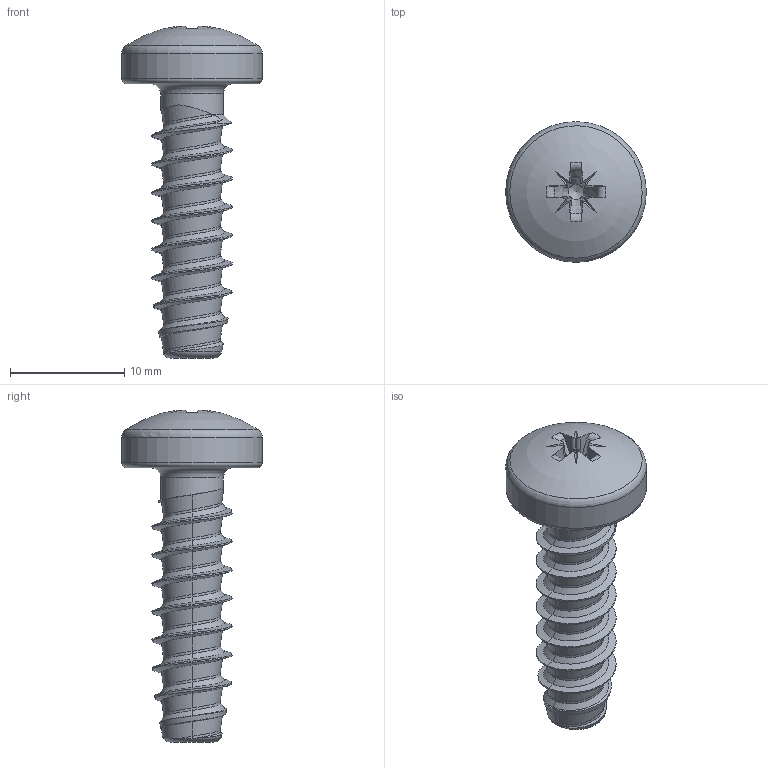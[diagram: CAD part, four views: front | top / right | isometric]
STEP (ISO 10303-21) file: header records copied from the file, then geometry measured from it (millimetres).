
FILE_DESCRIPTION(/* description */ (''),/* implementation_level */ '2;1');
FILE_NAME(/* name */ 'KN6032-STSplus-70x24-Z3.step',/* time_stamp */ '2017-10-10T16:31:24+02:00',/* author */ (''),/* organization */ (''),/* preprocessor_version */ 'ST-DEVELOPER v16',/* originating_system */ 'SIEMENS PLM Software NX 10.0',/* authorisation */ '');
FILE_SCHEMA (('AUTOMOTIVE_DESIGN { 1 0 10303 214 3 1 1 1 }'));
Length unit declared in the file: millimetre
Products named in the file (1): KN6032-STSplus-70x24-Z3
Bounding box: 12.3 x 12.3 x 29.04 mm (x, y, z)
Volume: 1031.8 mm3; surface area: 958.2 mm2
Topology: 1 solids, 1 shells, 117 faces, 284 edges, 169 vertices
Faces by surface type: bspline 48, plane 42, cylinder 11, torus 8, cone 7, sphere 1
Full cylindrical faces by diameter (mm): 5.48 x1, 12.3 x1
Entity records: 6339 total; most frequent: CARTESIAN_POINT 3998, ORIENTED_EDGE 540, DIRECTION 354, EDGE_CURVE 270, VERTEX_POINT 164, EDGE_LOOP 125, AXIS2_PLACEMENT_3D 125, ADVANCED_FACE 117
